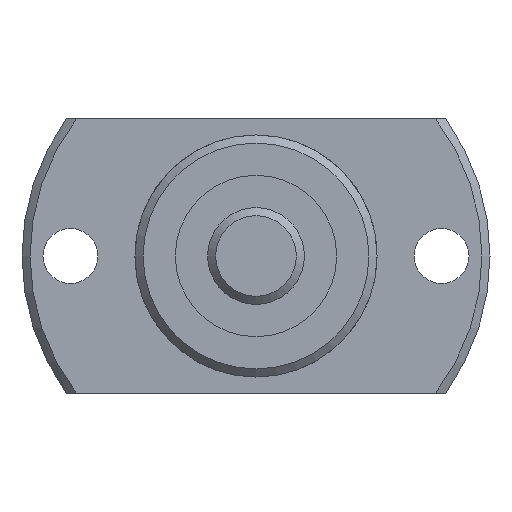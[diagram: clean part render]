
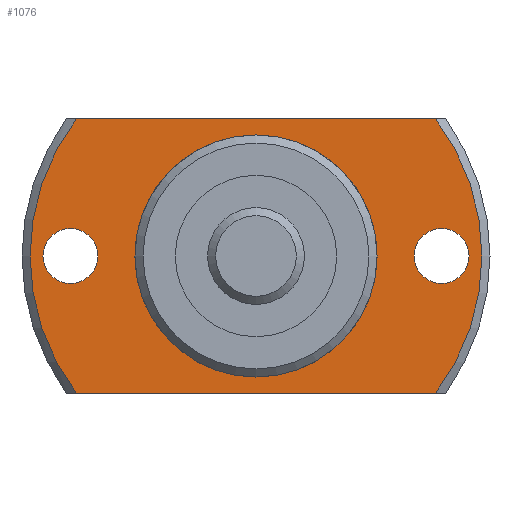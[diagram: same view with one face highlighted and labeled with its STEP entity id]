
A CAD part, left-side view. The second image highlights one B-rep face of the part: STEP entity #1076.
In plain terms, the highlighted planar face has unit normal (-1, 0, 0).
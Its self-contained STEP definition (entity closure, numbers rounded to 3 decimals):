
#107=LINE('',#1799,#165);
#108=LINE('',#1803,#166);
#165=VECTOR('',#1439,1000.);
#166=VECTOR('',#1442,1000.);
#291=ORIENTED_EDGE('',*,*,#548,.T.);
#292=ORIENTED_EDGE('',*,*,#549,.T.);
#293=ORIENTED_EDGE('',*,*,#537,.F.);
#294=ORIENTED_EDGE('',*,*,#550,.T.);
#295=ORIENTED_EDGE('',*,*,#551,.F.);
#296=ORIENTED_EDGE('',*,*,#552,.T.);
#297=ORIENTED_EDGE('',*,*,#531,.T.);
#531=EDGE_CURVE('',#669,#669,#759,.T.);
#537=EDGE_CURVE('',#674,#675,#762,.T.);
#548=EDGE_CURVE('',#684,#684,#768,.T.);
#549=EDGE_CURVE('',#685,#685,#769,.T.);
#550=EDGE_CURVE('',#674,#686,#107,.T.);
#551=EDGE_CURVE('',#687,#686,#770,.T.);
#552=EDGE_CURVE('',#687,#675,#108,.T.);
#669=VERTEX_POINT('',#1746);
#674=VERTEX_POINT('',#1760);
#675=VERTEX_POINT('',#1762);
#684=VERTEX_POINT('',#1796);
#685=VERTEX_POINT('',#1798);
#686=VERTEX_POINT('',#1800);
#687=VERTEX_POINT('',#1802);
#759=CIRCLE('',#1193,7.3);
#762=CIRCLE('',#1197,14.);
#768=CIRCLE('',#1208,1.7);
#769=CIRCLE('',#1209,1.7);
#770=CIRCLE('',#1210,14.);
#846=EDGE_LOOP('',(#291));
#847=EDGE_LOOP('',(#292));
#848=EDGE_LOOP('',(#293,#294,#295,#296));
#849=EDGE_LOOP('',(#297));
#952=FACE_BOUND('',#846,.T.);
#953=FACE_BOUND('',#847,.T.);
#954=FACE_BOUND('',#848,.T.);
#955=FACE_BOUND('',#849,.T.);
#1025=PLANE('',#1207);
#1076=ADVANCED_FACE('',(#952,#953,#954,#955),#1025,.F.);
#1193=AXIS2_PLACEMENT_3D('',#1745,#1401,#1402);
#1197=AXIS2_PLACEMENT_3D('',#1761,#1411,#1412);
#1207=AXIS2_PLACEMENT_3D('',#1794,#1433,#1434);
#1208=AXIS2_PLACEMENT_3D('',#1795,#1435,#1436);
#1209=AXIS2_PLACEMENT_3D('',#1797,#1437,#1438);
#1210=AXIS2_PLACEMENT_3D('',#1801,#1440,#1441);
#1401=DIRECTION('',(1.,0.,0.));
#1402=DIRECTION('',(0.,0.,-1.));
#1411=DIRECTION('',(1.,0.,0.));
#1412=DIRECTION('',(0.,0.,-1.));
#1433=DIRECTION('',(1.,0.,0.));
#1434=DIRECTION('',(0.,0.,-1.));
#1435=DIRECTION('',(1.,0.,0.));
#1436=DIRECTION('',(0.,0.,-1.));
#1437=DIRECTION('',(1.,0.,0.));
#1438=DIRECTION('',(0.,0.,-1.));
#1439=DIRECTION('',(0.,-1.,0.));
#1440=DIRECTION('',(1.,0.,0.));
#1441=DIRECTION('',(0.,0.,-1.));
#1442=DIRECTION('',(0.,1.,0.));
#1745=CARTESIAN_POINT('',(13.,0.,0.));
#1746=CARTESIAN_POINT('',(13.,0.,-7.3));
#1760=CARTESIAN_POINT('',(13.,11.124,-8.5));
#1761=CARTESIAN_POINT('',(13.,0.,0.));
#1762=CARTESIAN_POINT('',(13.,11.124,8.5));
#1794=CARTESIAN_POINT('',(13.,7.3,0.));
#1795=CARTESIAN_POINT('',(13.,-11.5,0.));
#1796=CARTESIAN_POINT('',(13.,-11.5,-1.7));
#1797=CARTESIAN_POINT('',(13.,11.5,0.));
#1798=CARTESIAN_POINT('',(13.,11.5,-1.7));
#1799=CARTESIAN_POINT('',(13.,7.3,-8.5));
#1800=CARTESIAN_POINT('',(13.,-11.124,-8.5));
#1801=CARTESIAN_POINT('',(13.,0.,0.));
#1802=CARTESIAN_POINT('',(13.,-11.124,8.5));
#1803=CARTESIAN_POINT('',(13.,7.3,8.5));
